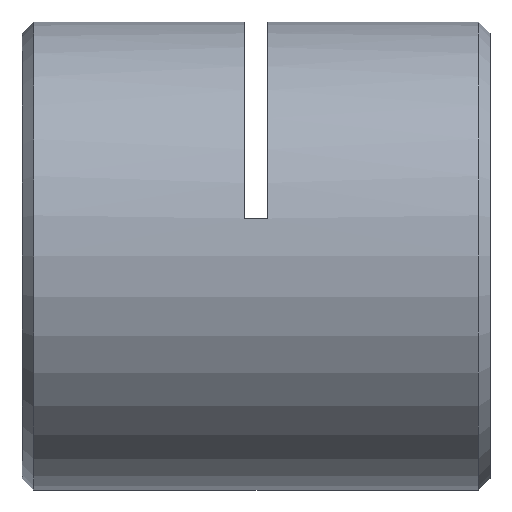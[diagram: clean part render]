
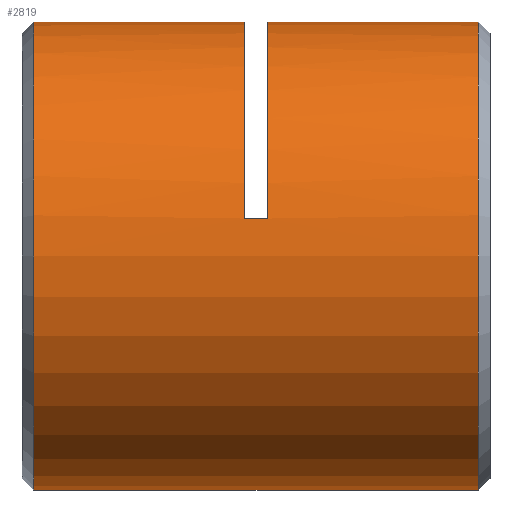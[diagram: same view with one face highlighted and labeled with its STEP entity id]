
A CAD part, left-side view. The second image highlights one B-rep face of the part: STEP entity #2819.
In plain terms, the highlighted cylindrical face has radius 8 mm (diameter 16 mm), a partial arc.
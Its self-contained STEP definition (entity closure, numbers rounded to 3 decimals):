
#8 = CARTESIAN_POINT ( 'NONE',  ( 0., 0.25, 8. ) ) ;
#13 = CARTESIAN_POINT ( 'NONE',  ( 0., 0.25, -8. ) ) ;
#33 = CARTESIAN_POINT ( 'NONE',  ( 0., 7.85, 0. ) ) ;
#49 = VECTOR ( 'NONE', #2553, 1000. ) ;
#95 = EDGE_CURVE ( 'NONE', #1635, #1760, #3428, .T. ) ;
#137 = AXIS2_PLACEMENT_3D ( 'NONE', #2777, #2764, #2199 ) ;
#285 = LINE ( 'NONE', #13, #840 ) ;
#410 = DIRECTION ( 'NONE',  ( 0., 0., -1. ) ) ;
#582 = VERTEX_POINT ( 'NONE', #2427 ) ;
#584 = EDGE_CURVE ( 'NONE', #2858, #1805, #1143, .T. ) ;
#640 = ORIENTED_EDGE ( 'NONE', *, *, #858, .T. ) ;
#698 = CYLINDRICAL_SURFACE ( 'NONE', #137, 8. ) ;
#716 = CIRCLE ( 'NONE', #2822, 8. ) ;
#753 = EDGE_CURVE ( 'NONE', #1216, #582, #3475, .T. ) ;
#762 = ORIENTED_EDGE ( 'NONE', *, *, #584, .T. ) ;
#771 = EDGE_CURVE ( 'NONE', #1805, #3889, #1909, .T. ) ;
#840 = VECTOR ( 'NONE', #3699, 1000. ) ;
#857 = VECTOR ( 'NONE', #3030, 1000. ) ;
#858 = EDGE_CURVE ( 'NONE', #1760, #2858, #716, .T. ) ;
#940 = FACE_OUTER_BOUND ( 'NONE', #3229, .T. ) ;
#957 = CARTESIAN_POINT ( 'NONE',  ( 0., 0.65, 0. ) ) ;
#979 = CARTESIAN_POINT ( 'NONE',  ( 0., 15.85, 0. ) ) ;
#1005 = DIRECTION ( 'NONE',  ( 0., 1., 0. ) ) ;
#1028 = CARTESIAN_POINT ( 'NONE',  ( -7.897, 7.85, 1.28 ) ) ;
#1143 = LINE ( 'NONE', #1533, #857 ) ;
#1211 = CIRCLE ( 'NONE', #2253, 8. ) ;
#1216 = VERTEX_POINT ( 'NONE', #2815 ) ;
#1265 = CARTESIAN_POINT ( 'NONE',  ( 0., 7.85, 8. ) ) ;
#1300 = DIRECTION ( 'NONE',  ( 0., 1., 0. ) ) ;
#1346 = CARTESIAN_POINT ( 'NONE',  ( -7.897, 8.65, 1.28 ) ) ;
#1379 = AXIS2_PLACEMENT_3D ( 'NONE', #979, #1609, #410 ) ;
#1462 = ORIENTED_EDGE ( 'NONE', *, *, #1904, .T. ) ;
#1533 = CARTESIAN_POINT ( 'NONE',  ( 0., 0.25, 8. ) ) ;
#1567 = DIRECTION ( 'NONE',  ( 0., 0., 1. ) ) ;
#1609 = DIRECTION ( 'NONE',  ( 0., -1., 0. ) ) ;
#1635 = VERTEX_POINT ( 'NONE', #1028 ) ;
#1644 = CARTESIAN_POINT ( 'NONE',  ( -7.897, 8.25, 1.28 ) ) ;
#1698 = CARTESIAN_POINT ( 'NONE',  ( 0., 15.85, 8. ) ) ;
#1760 = VERTEX_POINT ( 'NONE', #1346 ) ;
#1805 = VERTEX_POINT ( 'NONE', #1698 ) ;
#1843 = DIRECTION ( 'NONE',  ( 0., 1., 0. ) ) ;
#1904 = EDGE_CURVE ( 'NONE', #582, #2800, #3176, .T. ) ;
#1909 = CIRCLE ( 'NONE', #1379, 8. ) ;
#1929 = AXIS2_PLACEMENT_3D ( 'NONE', #957, #3076, #1567 ) ;
#2199 = DIRECTION ( 'NONE',  ( 0., 0., 1. ) ) ;
#2253 = AXIS2_PLACEMENT_3D ( 'NONE', #33, #1300, #3796 ) ;
#2427 = CARTESIAN_POINT ( 'NONE',  ( 0., 0.65, 8. ) ) ;
#2553 = DIRECTION ( 'NONE',  ( 0., 1., 0. ) ) ;
#2564 = VECTOR ( 'NONE', #1843, 1000. ) ;
#2764 = DIRECTION ( 'NONE',  ( 0., 1., 0. ) ) ;
#2776 = ORIENTED_EDGE ( 'NONE', *, *, #771, .T. ) ;
#2777 = CARTESIAN_POINT ( 'NONE',  ( 0., 0.25, 0. ) ) ;
#2800 = VERTEX_POINT ( 'NONE', #1265 ) ;
#2815 = CARTESIAN_POINT ( 'NONE',  ( 0., 0.65, -8. ) ) ;
#2819 = ADVANCED_FACE ( 'NONE', ( #940 ), #698, .T. ) ;
#2822 = AXIS2_PLACEMENT_3D ( 'NONE', #3769, #1005, #3720 ) ;
#2858 = VERTEX_POINT ( 'NONE', #3096 ) ;
#2884 = EDGE_CURVE ( 'NONE', #1216, #3889, #285, .T. ) ;
#2990 = ORIENTED_EDGE ( 'NONE', *, *, #3172, .F. ) ;
#3030 = DIRECTION ( 'NONE',  ( 0., 1., 0. ) ) ;
#3063 = ORIENTED_EDGE ( 'NONE', *, *, #753, .T. ) ;
#3073 = CARTESIAN_POINT ( 'NONE',  ( 0., 15.85, -8. ) ) ;
#3076 = DIRECTION ( 'NONE',  ( 0., 1., 0. ) ) ;
#3096 = CARTESIAN_POINT ( 'NONE',  ( 0., 8.65, 8. ) ) ;
#3172 = EDGE_CURVE ( 'NONE', #1635, #2800, #1211, .T. ) ;
#3176 = LINE ( 'NONE', #8, #2564 ) ;
#3229 = EDGE_LOOP ( 'NONE', ( #3529, #3063, #1462, #2990, #3245, #640, #762, #2776 ) ) ;
#3245 = ORIENTED_EDGE ( 'NONE', *, *, #95, .T. ) ;
#3428 = LINE ( 'NONE', #1644, #49 ) ;
#3475 = CIRCLE ( 'NONE', #1929, 8. ) ;
#3529 = ORIENTED_EDGE ( 'NONE', *, *, #2884, .F. ) ;
#3699 = DIRECTION ( 'NONE',  ( 0., 1., 0. ) ) ;
#3720 = DIRECTION ( 'NONE',  ( 0., 0., 1. ) ) ;
#3769 = CARTESIAN_POINT ( 'NONE',  ( 0., 8.65, 0. ) ) ;
#3796 = DIRECTION ( 'NONE',  ( 0., 0., 1. ) ) ;
#3889 = VERTEX_POINT ( 'NONE', #3073 ) ;
